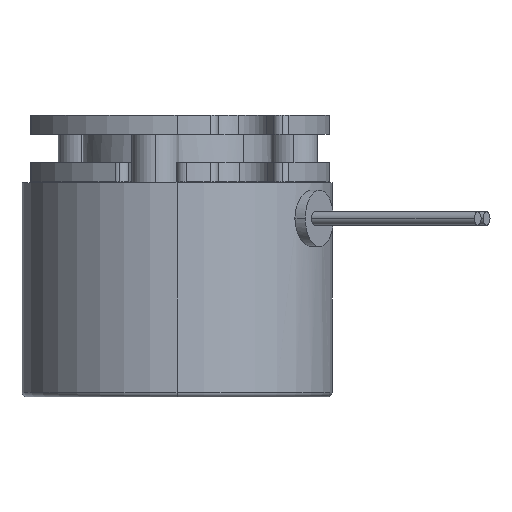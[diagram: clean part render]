
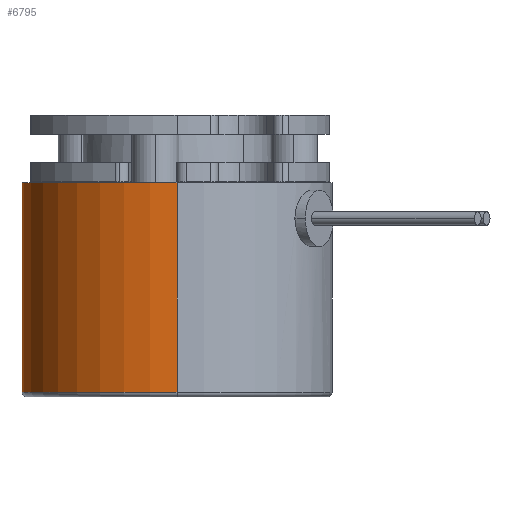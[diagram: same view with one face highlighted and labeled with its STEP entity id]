
A CAD part, left-side view. The second image highlights one B-rep face of the part: STEP entity #6795.
In plain terms, the highlighted cylindrical face has radius 16.5 mm (diameter 33 mm), a partial arc.
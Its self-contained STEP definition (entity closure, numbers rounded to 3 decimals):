
#3 = CARTESIAN_POINT ( 'NONE',  ( -16.5, 0., -5.15 ) ) ;
#48 = CARTESIAN_POINT ( 'NONE',  ( -16.5, 0., -27.45 ) ) ;
#101 = CARTESIAN_POINT ( 'NONE',  ( 16.5, 0., -27.45 ) ) ;
#540 = CIRCLE ( 'NONE', #9458, 16.5 ) ;
#1561 = EDGE_LOOP ( 'NONE', ( #1589, #1585, #1580, #1576 ) ) ;
#1576 = ORIENTED_EDGE ( 'NONE', *, *, #7898, .F. ) ;
#1580 = ORIENTED_EDGE ( 'NONE', *, *, #7913, .T. ) ;
#1585 = ORIENTED_EDGE ( 'NONE', *, *, #7897, .T. ) ;
#1589 = ORIENTED_EDGE ( 'NONE', *, *, #7896, .F. ) ;
#1896 = VECTOR ( 'NONE', #6429, 1000. ) ;
#1902 = VECTOR ( 'NONE', #6428, 1000. ) ;
#1913 = CIRCLE ( 'NONE', #9467, 16.5 ) ;
#1926 = LINE ( 'NONE', #6423, #1896 ) ;
#1939 = LINE ( 'NONE', #6424, #1902 ) ;
#4579 = FACE_OUTER_BOUND ( 'NONE', #1561, .T. ) ;
#4588 = CYLINDRICAL_SURFACE ( 'NONE', #8606, 16.5 ) ;
#4726 = VERTEX_POINT ( 'NONE', #7461 ) ;
#4786 = VERTEX_POINT ( 'NONE', #3 ) ;
#4971 = VERTEX_POINT ( 'NONE', #48 ) ;
#5454 = VERTEX_POINT ( 'NONE', #101 ) ;
#6423 = CARTESIAN_POINT ( 'NONE',  ( -16.5, 0., -5.15 ) ) ;
#6424 = CARTESIAN_POINT ( 'NONE',  ( 16.5, 0., -5.15 ) ) ;
#6425 = CARTESIAN_POINT ( 'NONE',  ( 0., 0., -5.15 ) ) ;
#6426 = DIRECTION ( 'NONE',  ( 0., 0., 1. ) ) ;
#6427 = DIRECTION ( 'NONE',  ( 1., 0., 0. ) ) ;
#6428 = DIRECTION ( 'NONE',  ( 0., 0., -1. ) ) ;
#6429 = DIRECTION ( 'NONE',  ( 0., 0., -1. ) ) ;
#6466 = CARTESIAN_POINT ( 'NONE',  ( 0., 0., -27.45 ) ) ;
#6467 = DIRECTION ( 'NONE',  ( 0., 0., 1. ) ) ;
#6468 = DIRECTION ( 'NONE',  ( 1., 0., 0. ) ) ;
#6795 = ADVANCED_FACE ( 'NONE', ( #4579 ), #4588, .T. ) ;
#6900 = CARTESIAN_POINT ( 'NONE',  ( 0., 0., -5.15 ) ) ;
#6901 = DIRECTION ( 'NONE',  ( 0., 0., -1. ) ) ;
#6909 = DIRECTION ( 'NONE',  ( -1., 0., 0. ) ) ;
#7461 = CARTESIAN_POINT ( 'NONE',  ( 16.5, 0., -5.15 ) ) ;
#7896 = EDGE_CURVE ( 'NONE', #4726, #4786, #1913, .T. ) ;
#7897 = EDGE_CURVE ( 'NONE', #4726, #5454, #1939, .T. ) ;
#7898 = EDGE_CURVE ( 'NONE', #4786, #4971, #1926, .T. ) ;
#7913 = EDGE_CURVE ( 'NONE', #5454, #4971, #540, .T. ) ;
#8606 = AXIS2_PLACEMENT_3D ( 'NONE', #6900, #6901, #6909 ) ;
#9458 = AXIS2_PLACEMENT_3D ( 'NONE', #6466, #6467, #6468 ) ;
#9467 = AXIS2_PLACEMENT_3D ( 'NONE', #6425, #6426, #6427 ) ;
